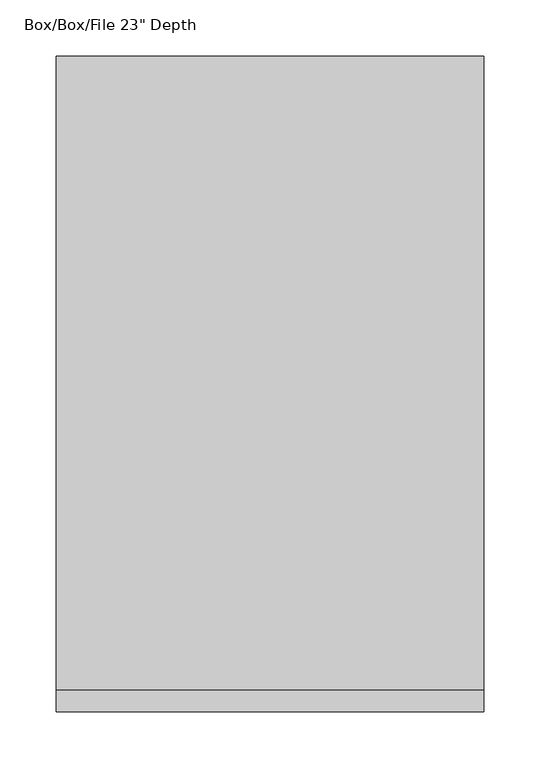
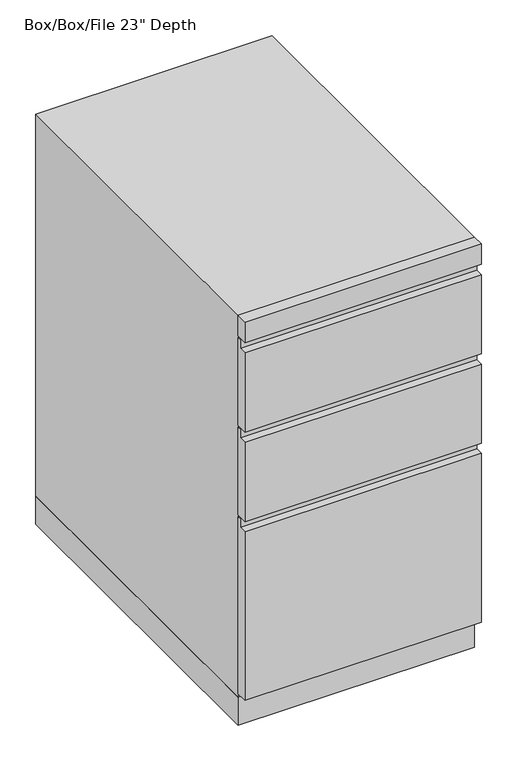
"""IFC4 building model written with IfcOpenShell, lengths in millimetres: furniture geometry."""

from ifc_helpers import new_model, si_unit, frame, origin, origin_with_axes, place, context, project, spatial, polyline, outline, extrude, source, transform, mapped, element, save


def furniture_ff569894(model_context):
    return source(origin(), model_context, "Body", "SweptSolid", [
        extrude(outline(polyline([(-565.15, 358.775), (-584.2, 358.775), (-584.2, 493.7125), (-571.5, 493.7125), (-571.5, 508.0), (-565.15, 508.0), (-565.15, 358.775)])), frame((-190.5, 0.0, 0.0), z_axis=(1.0, 0.0, 0.0), x_axis=(0.0, 1.0, 0.0)), (0.0, 0.0, 1.0), 381.0),
        extrude(outline(polyline([(-565.15, 511.175), (-584.2, 511.175), (-584.2, 646.1125), (-571.5, 646.1125), (-571.5, 660.4), (-565.15, 660.4), (-565.15, 511.175)])), frame((-190.5, 0.0, 0.0), z_axis=(1.0, 0.0, 0.0), x_axis=(0.0, 1.0, 0.0)), (0.0, 0.0, 1.0), 381.0),
        extrude(outline(polyline([(-565.15, 53.975), (-584.2, 53.975), (-584.2, 341.3125), (-571.5, 341.3125), (-571.5, 355.6), (-565.15, 355.6), (-565.15, 53.975)])), frame((-190.5, 0.0, 0.0), z_axis=(1.0, 0.0, 0.0), x_axis=(0.0, 1.0, 0.0)), (0.0, 0.0, 1.0), 381.0),
        extrude(outline(polyline([(190.5, 0.0), (190.5, -565.15), (-190.5, -565.15), (-190.5, 0.0), (190.5, 0.0)])), origin_with_axes(), (0.0, 0.0, 1.0), 47.625),
        extrude(outline(polyline([(190.5, -584.2), (-190.5, -584.2), (-190.5, -565.15), (190.5, -565.15), (190.5, -584.2)])), frame((0.0, 0.0, 663.575), z_axis=(0.0, 0.0, 1.0), x_axis=(1.0, 0.0, 0.0)), (0.0, 0.0, 1.0), 34.925),
        extrude(outline(polyline([(190.5, 0.0), (190.5, -565.15), (-190.5, -565.15), (-190.5, 0.0), (190.5, 0.0)])), frame((0.0, 0.0, 47.625), z_axis=(0.0, 0.0, 1.0), x_axis=(1.0, 0.0, 0.0)), (0.0, 0.0, 1.0), 650.875),
    ])


if __name__ == "__main__":
    model = new_model("IFC4")
    model_context = context("Model", 3, world=origin())
    ifc_project = project(units=[si_unit("LENGTHUNIT", "METRE", prefix="MILLI")], contexts=[model_context])
    site = spatial("IfcSite", under=ifc_project)
    building = spatial("IfcBuilding", under=site)
    placement = place(None, origin())
    furniture_shape = furniture_ff569894(model_context)
    element("IfcFurniture", 1, ObjectType="Haworth_XSeries-Mobile_Pedestal : Box/Box/File 23\" Depth", at=placement, inside=building, context=model_context, shape_type="MappedRepresentation", body=[
        mapped(furniture_shape, transform((0.0, 0.0, 0.0), x_axis=(1.0, 0.0, 0.0), y_axis=(0.0, 1.0, 0.0), z_axis=(0.0, 0.0, 1.0))),
    ])
    save(model, "model.ifc")
